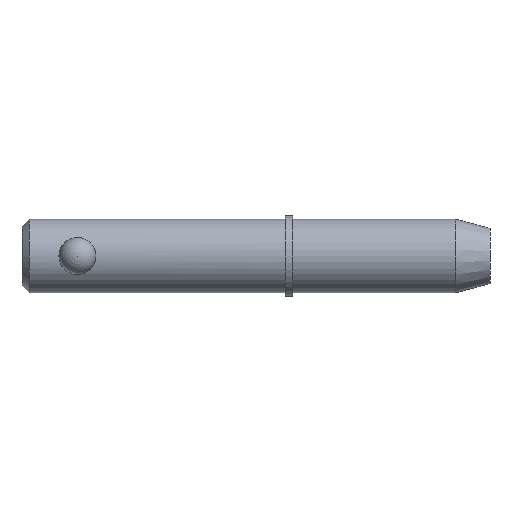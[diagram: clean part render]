
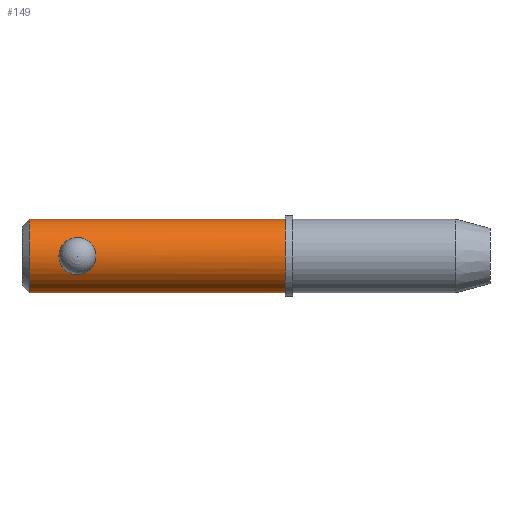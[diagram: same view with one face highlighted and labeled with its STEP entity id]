
A CAD part, front view. The second image highlights one B-rep face of the part: STEP entity #149.
In plain terms, the highlighted cylindrical face has radius 2.38 mm (diameter 4.76 mm), a partial arc.
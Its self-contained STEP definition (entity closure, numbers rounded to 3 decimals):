
#3 = CARTESIAN_POINT ( 'NONE',  ( 0.476, 0., 0. ) ) ;
#5 = CARTESIAN_POINT ( 'NONE',  ( 4.727, -2.363, -0.318 ) ) ;
#8 = CARTESIAN_POINT ( 'NONE',  ( 4.175, -2.143, -1.037 ) ) ;
#10 = CARTESIAN_POINT ( 'NONE',  ( 2.967, -2.143, 1.037 ) ) ;
#14 = CARTESIAN_POINT ( 'NONE',  ( 16.974, 0., -2.38 ) ) ;
#17 = CARTESIAN_POINT ( 'NONE',  ( 4.298, -2.185, 0.945 ) ) ;
#20 = ORIENTED_EDGE ( 'NONE', *, *, #215, .F. ) ;
#46 = AXIS2_PLACEMENT_3D ( 'NONE', #258, #547, #778 ) ;
#79 = CARTESIAN_POINT ( 'NONE',  ( 3.649, -2.061, -1.19 ) ) ;
#80 = CARTESIAN_POINT ( 'NONE',  ( 0.476, 0., -2.38 ) ) ;
#81 = EDGE_LOOP ( 'NONE', ( #408, #194, #630, #20 ) ) ;
#84 = CARTESIAN_POINT ( 'NONE',  ( 3.57, -2.061, 1.19 ) ) ;
#111 = CIRCLE ( 'NONE', #552, 2.38 ) ;
#142 = CARTESIAN_POINT ( 'NONE',  ( 3.412, -2.061, -1.19 ) ) ;
#144 = VERTEX_POINT ( 'NONE', #949 ) ;
#147 = DIRECTION ( 'NONE',  ( 0., 0., -1. ) ) ;
#148 = DIRECTION ( 'NONE',  ( 1., 0., 0. ) ) ;
#149 = ADVANCED_FACE ( 'NONE', ( #863, #496 ), #180, .T. ) ;
#163 = CARTESIAN_POINT ( 'NONE',  ( 3.57, -2.061, 1.19 ) ) ;
#165 = CARTESIAN_POINT ( 'NONE',  ( 2.419, -2.361, 0.313 ) ) ;
#180 = CYLINDRICAL_SURFACE ( 'NONE', #46, 2.38 ) ;
#194 = ORIENTED_EDGE ( 'NONE', *, *, #494, .T. ) ;
#195 = EDGE_CURVE ( 'NONE', #484, #916, #430, .T. ) ;
#215 = EDGE_CURVE ( 'NONE', #144, #330, #111, .T. ) ;
#238 = CARTESIAN_POINT ( 'NONE',  ( 4.728, -2.364, 0.315 ) ) ;
#239 = CARTESIAN_POINT ( 'NONE',  ( 0., 0., 2.38 ) ) ;
#240 = CARTESIAN_POINT ( 'NONE',  ( 2.443, -2.349, 0.389 ) ) ;
#244 = CARTESIAN_POINT ( 'NONE',  ( 2.533, -2.307, 0.604 ) ) ;
#246 = CARTESIAN_POINT ( 'NONE',  ( 4.76, -2.38, -0.159 ) ) ;
#249 = CARTESIAN_POINT ( 'NONE',  ( 4.101, -2.127, 1.068 ) ) ;
#258 = CARTESIAN_POINT ( 'NONE',  ( 0., 0., 0. ) ) ;
#279 = VECTOR ( 'NONE', #608, 1000. ) ;
#298 = CARTESIAN_POINT ( 'NONE',  ( 2.534, -2.306, -0.605 ) ) ;
#315 = CARTESIAN_POINT ( 'NONE',  ( 2.412, -2.363, -0.316 ) ) ;
#320 = CARTESIAN_POINT ( 'NONE',  ( 2.837, -2.185, 0.95 ) ) ;
#323 = CARTESIAN_POINT ( 'NONE',  ( 3.65, -2.061, 1.19 ) ) ;
#325 = ORIENTED_EDGE ( 'NONE', *, *, #333, .F. ) ;
#330 = VERTEX_POINT ( 'NONE', #14 ) ;
#333 = EDGE_CURVE ( 'NONE', #916, #484, #775, .T. ) ;
#375 = VERTEX_POINT ( 'NONE', #717 ) ;
#386 = CARTESIAN_POINT ( 'NONE',  ( 3.958, -2.096, -1.128 ) ) ;
#389 = CARTESIAN_POINT ( 'NONE',  ( 4.519, -2.267, -0.733 ) ) ;
#391 = CARTESIAN_POINT ( 'NONE',  ( 3.411, -2.066, 1.182 ) ) ;
#392 = CARTESIAN_POINT ( 'NONE',  ( 2.38, -2.38, -0.158 ) ) ;
#397 = CARTESIAN_POINT ( 'NONE',  ( 3.258, -2.083, 1.151 ) ) ;
#403 = CARTESIAN_POINT ( 'NONE',  ( 3.57, -2.061, -1.19 ) ) ;
#408 = ORIENTED_EDGE ( 'NONE', *, *, #746, .F. ) ;
#430 = B_SPLINE_CURVE_WITH_KNOTS ( 'NONE', 3,
 ( #84, #761, #391, #397, #687, #10, #320, #915, #244, #240, #165, #538, #756, #392, #315, #298, #897, #453, #465, #908, #142, #443 ),
 .UNSPECIFIED., .F., .F.,
 ( 4, 2, 2, 2, 2, 2, 2, 2, 2, 2, 4 ),
 ( 0., 0., 0., 0.001, 0.001, 0.002, 0.002, 0.002, 0.003, 0.003, 0.004 ),
 .UNSPECIFIED. ) ;
#443 = CARTESIAN_POINT ( 'NONE',  ( 3.57, -2.061, -1.19 ) ) ;
#453 = CARTESIAN_POINT ( 'NONE',  ( 2.838, -2.185, -0.951 ) ) ;
#465 = CARTESIAN_POINT ( 'NONE',  ( 2.968, -2.143, -1.038 ) ) ;
#484 = VERTEX_POINT ( 'NONE', #679 ) ;
#494 = EDGE_CURVE ( 'NONE', #375, #641, #771, .T. ) ;
#496 = FACE_BOUND ( 'NONE', #757, .T. ) ;
#525 = LINE ( 'NONE', #239, #963 ) ;
#536 = CARTESIAN_POINT ( 'NONE',  ( 4.356, -2.206, 0.896 ) ) ;
#538 = CARTESIAN_POINT ( 'NONE',  ( 2.388, -2.376, 0.158 ) ) ;
#547 = DIRECTION ( 'NONE',  ( 1., 0., 0. ) ) ;
#552 = AXIS2_PLACEMENT_3D ( 'NONE', #967, #666, #147 ) ;
#607 = CARTESIAN_POINT ( 'NONE',  ( 4.76, -2.38, 0.157 ) ) ;
#608 = DIRECTION ( 'NONE',  ( 1., 0., 0. ) ) ;
#611 = CARTESIAN_POINT ( 'NONE',  ( 3.57, -2.061, -1.19 ) ) ;
#630 = ORIENTED_EDGE ( 'NONE', *, *, #729, .T. ) ;
#641 = VERTEX_POINT ( 'NONE', #80 ) ;
#666 = DIRECTION ( 'NONE',  ( 1., 0., 0. ) ) ;
#668 = LINE ( 'NONE', #970, #279 ) ;
#678 = CARTESIAN_POINT ( 'NONE',  ( 4.607, -2.307, -0.603 ) ) ;
#679 = CARTESIAN_POINT ( 'NONE',  ( 3.57, -2.061, 1.19 ) ) ;
#681 = CARTESIAN_POINT ( 'NONE',  ( 4.52, -2.267, 0.733 ) ) ;
#685 = CARTESIAN_POINT ( 'NONE',  ( 3.884, -2.084, 1.15 ) ) ;
#687 = CARTESIAN_POINT ( 'NONE',  ( 3.181, -2.096, 1.127 ) ) ;
#690 = CARTESIAN_POINT ( 'NONE',  ( 4.607, -2.307, 0.604 ) ) ;
#717 = CARTESIAN_POINT ( 'NONE',  ( 0.476, 0., 2.38 ) ) ;
#729 = EDGE_CURVE ( 'NONE', #641, #330, #668, .T. ) ;
#745 = DIRECTION ( 'NONE',  ( 1., 0., 0. ) ) ;
#746 = EDGE_CURVE ( 'NONE', #375, #144, #525, .T. ) ;
#750 = DIRECTION ( 'NONE',  ( 0., 0., -1. ) ) ;
#756 = CARTESIAN_POINT ( 'NONE',  ( 2.38, -2.38, 0.08 ) ) ;
#757 = EDGE_LOOP ( 'NONE', ( #828, #325 ) ) ;
#758 = CARTESIAN_POINT ( 'NONE',  ( 4.303, -2.185, -0.95 ) ) ;
#761 = CARTESIAN_POINT ( 'NONE',  ( 3.49, -2.061, 1.19 ) ) ;
#771 = CIRCLE ( 'NONE', #808, 2.38 ) ;
#775 = B_SPLINE_CURVE_WITH_KNOTS ( 'NONE', 3,
 ( #611, #79, #905, #776, #386, #8, #758, #389, #678, #5, #246, #607, #238, #690, #681, #536, #17, #912, #249, #921, #685, #835, #323, #163 ),
 .UNSPECIFIED., .F., .F.,
 ( 4, 2, 2, 2, 2, 2, 2, 2, 2, 2, 2, 4 ),
 ( 0.004, 0.004, 0.004, 0.005, 0.005, 0.006, 0.006, 0.007, 0.007, 0.007, 0.007, 0.008 ),
 .UNSPECIFIED. ) ;
#776 = CARTESIAN_POINT ( 'NONE',  ( 3.883, -2.083, -1.151 ) ) ;
#778 = DIRECTION ( 'NONE',  ( 0., 0., -1. ) ) ;
#808 = AXIS2_PLACEMENT_3D ( 'NONE', #3, #745, #750 ) ;
#828 = ORIENTED_EDGE ( 'NONE', *, *, #195, .F. ) ;
#835 = CARTESIAN_POINT ( 'NONE',  ( 3.73, -2.066, 1.182 ) ) ;
#863 = FACE_OUTER_BOUND ( 'NONE', #81, .T. ) ;
#897 = CARTESIAN_POINT ( 'NONE',  ( 2.622, -2.267, -0.735 ) ) ;
#905 = CARTESIAN_POINT ( 'NONE',  ( 3.729, -2.066, -1.182 ) ) ;
#908 = CARTESIAN_POINT ( 'NONE',  ( 3.253, -2.081, -1.157 ) ) ;
#912 = CARTESIAN_POINT ( 'NONE',  ( 4.17, -2.146, 1.03 ) ) ;
#915 = CARTESIAN_POINT ( 'NONE',  ( 2.621, -2.267, 0.734 ) ) ;
#916 = VERTEX_POINT ( 'NONE', #403 ) ;
#921 = CARTESIAN_POINT ( 'NONE',  ( 3.959, -2.096, 1.127 ) ) ;
#949 = CARTESIAN_POINT ( 'NONE',  ( 16.974, 0., 2.38 ) ) ;
#963 = VECTOR ( 'NONE', #148, 1000. ) ;
#967 = CARTESIAN_POINT ( 'NONE',  ( 16.974, 0., 0. ) ) ;
#970 = CARTESIAN_POINT ( 'NONE',  ( 0., 0., -2.38 ) ) ;
